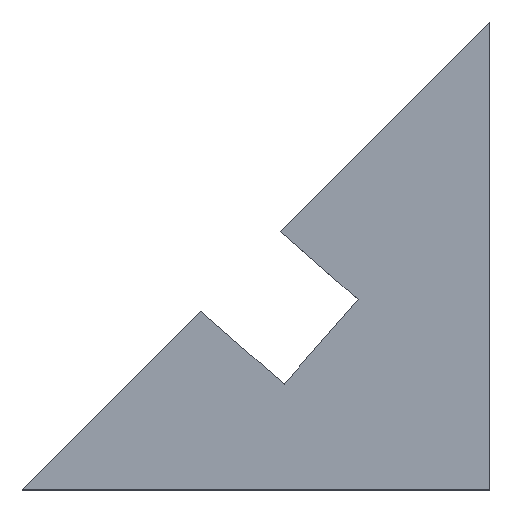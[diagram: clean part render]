
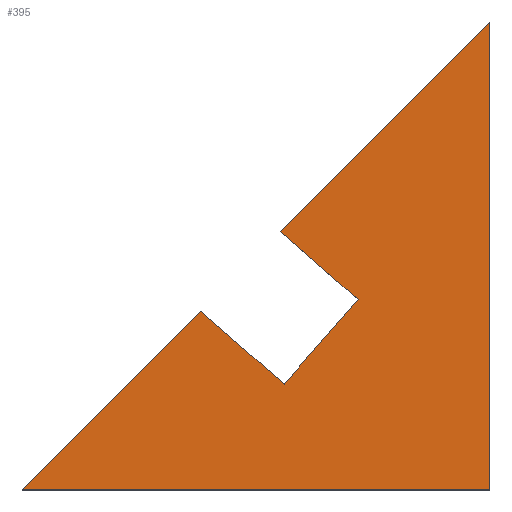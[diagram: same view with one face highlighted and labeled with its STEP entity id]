
A CAD part, top view. The second image highlights one B-rep face of the part: STEP entity #395.
In plain terms, the highlighted planar face has unit normal (0, 0, 1).
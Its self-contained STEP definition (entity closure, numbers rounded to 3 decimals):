
#24 = VERTEX_POINT('',#25);
#25 = CARTESIAN_POINT('',(0.,0.,12.));
#32 = PLANE('',#33);
#33 = AXIS2_PLACEMENT_3D('',#34,#35,#36);
#34 = CARTESIAN_POINT('',(0.,0.,0.));
#35 = DIRECTION('',(-0.,1.,-0.));
#36 = DIRECTION('',(1.,0.,0.));
#44 = PLANE('',#45);
#45 = AXIS2_PLACEMENT_3D('',#46,#47,#48);
#46 = CARTESIAN_POINT('',(0.,250.,0.));
#47 = DIRECTION('',(-1.,-0.,-0.));
#48 = DIRECTION('',(0.,1.,0.));
#56 = EDGE_CURVE('',#24,#57,#59,.T.);
#57 = VERTEX_POINT('',#58);
#58 = CARTESIAN_POINT('',(-250.,0.,12.));
#59 = SURFACE_CURVE('',#60,(#64,#71),.PCURVE_S1.);
#60 = LINE('',#61,#62);
#61 = CARTESIAN_POINT('',(0.,0.,12.));
#62 = VECTOR('',#63,1.);
#63 = DIRECTION('',(-1.,-0.,-0.));
#64 = PCURVE('',#32,#65);
#65 = DEFINITIONAL_REPRESENTATION('',(#66),#70);
#66 = LINE('',#67,#68);
#67 = CARTESIAN_POINT('',(-0.,-12.));
#68 = VECTOR('',#69,1.);
#69 = DIRECTION('',(-1.,0.));
#70 = ( GEOMETRIC_REPRESENTATION_CONTEXT(2) 
PARAMETRIC_REPRESENTATION_CONTEXT() REPRESENTATION_CONTEXT('2D SPACE',''
  ) );
#71 = PCURVE('',#72,#77);
#72 = PLANE('',#73);
#73 = AXIS2_PLACEMENT_3D('',#74,#75,#76);
#74 = CARTESIAN_POINT('',(-88.388,88.388,12.));
#75 = DIRECTION('',(-0.,-0.,1.));
#76 = DIRECTION('',(1.,0.,0.));
#77 = DEFINITIONAL_REPRESENTATION('',(#78),#82);
#78 = LINE('',#79,#80);
#79 = CARTESIAN_POINT('',(88.388,-88.388));
#80 = VECTOR('',#81,1.);
#81 = DIRECTION('',(-1.,0.));
#82 = ( GEOMETRIC_REPRESENTATION_CONTEXT(2) 
PARAMETRIC_REPRESENTATION_CONTEXT() REPRESENTATION_CONTEXT('2D SPACE',''
  ) );
#100 = PLANE('',#101);
#101 = AXIS2_PLACEMENT_3D('',#102,#103,#104);
#102 = CARTESIAN_POINT('',(-250.,0.,0.));
#103 = DIRECTION('',(0.707,-0.707,0.));
#104 = DIRECTION('',(-0.707,-0.707,0.));
#144 = VERTEX_POINT('',#145);
#145 = CARTESIAN_POINT('',(0.,250.,12.));
#159 = PLANE('',#160);
#160 = AXIS2_PLACEMENT_3D('',#161,#162,#163);
#161 = CARTESIAN_POINT('',(-250.,0.,0.));
#162 = DIRECTION('',(0.707,-0.707,0.));
#163 = DIRECTION('',(-0.707,-0.707,0.));
#171 = EDGE_CURVE('',#144,#24,#172,.T.);
#172 = SURFACE_CURVE('',#173,(#177,#184),.PCURVE_S1.);
#173 = LINE('',#174,#175);
#174 = CARTESIAN_POINT('',(0.,250.,12.));
#175 = VECTOR('',#176,1.);
#176 = DIRECTION('',(-0.,-1.,-0.));
#177 = PCURVE('',#44,#178);
#178 = DEFINITIONAL_REPRESENTATION('',(#179),#183);
#179 = LINE('',#180,#181);
#180 = CARTESIAN_POINT('',(-0.,-12.));
#181 = VECTOR('',#182,1.);
#182 = DIRECTION('',(-1.,0.));
#183 = ( GEOMETRIC_REPRESENTATION_CONTEXT(2) 
PARAMETRIC_REPRESENTATION_CONTEXT() REPRESENTATION_CONTEXT('2D SPACE',''
  ) );
#184 = PCURVE('',#72,#185);
#185 = DEFINITIONAL_REPRESENTATION('',(#186),#190);
#186 = LINE('',#187,#188);
#187 = CARTESIAN_POINT('',(88.388,161.612));
#188 = VECTOR('',#189,1.);
#189 = DIRECTION('',(-0.,-1.));
#190 = ( GEOMETRIC_REPRESENTATION_CONTEXT(2) 
PARAMETRIC_REPRESENTATION_CONTEXT() REPRESENTATION_CONTEXT('2D SPACE',''
  ) );
#241 = EDGE_CURVE('',#57,#242,#244,.T.);
#242 = VERTEX_POINT('',#243);
#243 = CARTESIAN_POINT('',(-154.456,95.544,12.));
#244 = SURFACE_CURVE('',#245,(#249,#256),.PCURVE_S1.);
#245 = LINE('',#246,#247);
#246 = CARTESIAN_POINT('',(-250.,0.,12.));
#247 = VECTOR('',#248,1.);
#248 = DIRECTION('',(0.707,0.707,-0.));
#249 = PCURVE('',#100,#250);
#250 = DEFINITIONAL_REPRESENTATION('',(#251),#255);
#251 = LINE('',#252,#253);
#252 = CARTESIAN_POINT('',(-0.,-12.));
#253 = VECTOR('',#254,1.);
#254 = DIRECTION('',(-1.,0.));
#255 = ( GEOMETRIC_REPRESENTATION_CONTEXT(2) 
PARAMETRIC_REPRESENTATION_CONTEXT() REPRESENTATION_CONTEXT('2D SPACE',''
  ) );
#256 = PCURVE('',#72,#257);
#257 = DEFINITIONAL_REPRESENTATION('',(#258),#262);
#258 = LINE('',#259,#260);
#259 = CARTESIAN_POINT('',(-161.612,-88.388));
#260 = VECTOR('',#261,1.);
#261 = DIRECTION('',(0.707,0.707));
#262 = ( GEOMETRIC_REPRESENTATION_CONTEXT(2) 
PARAMETRIC_REPRESENTATION_CONTEXT() REPRESENTATION_CONTEXT('2D SPACE',''
  ) );
#278 = PLANE('',#279);
#279 = AXIS2_PLACEMENT_3D('',#280,#281,#282);
#280 = CARTESIAN_POINT('',(-583.532,471.81,36.001));
#281 = DIRECTION('',(-0.659,-0.752,-0.));
#282 = DIRECTION('',(-0.752,0.659,-0.));
#335 = PLANE('',#336);
#336 = AXIS2_PLACEMENT_3D('',#337,#338,#339);
#337 = CARTESIAN_POINT('',(-70.443,101.675,36.001));
#338 = DIRECTION('',(0.752,-0.659,0.));
#339 = DIRECTION('',(0.,0.,1.));
#363 = PLANE('',#364);
#364 = AXIS2_PLACEMENT_3D('',#365,#366,#367);
#365 = CARTESIAN_POINT('',(-543.972,516.924,36.001));
#366 = DIRECTION('',(-0.659,-0.752,-0.));
#367 = DIRECTION('',(-0.752,0.659,-0.));
#395 = ADVANCED_FACE('',(#396),#72,.T.);
#396 = FACE_BOUND('',#397,.F.);
#397 = EDGE_LOOP('',(#398,#399,#400,#401,#424,#447,#470));
#398 = ORIENTED_EDGE('',*,*,#171,.T.);
#399 = ORIENTED_EDGE('',*,*,#56,.T.);
#400 = ORIENTED_EDGE('',*,*,#241,.T.);
#401 = ORIENTED_EDGE('',*,*,#402,.F.);
#402 = EDGE_CURVE('',#403,#242,#405,.T.);
#403 = VERTEX_POINT('',#404);
#404 = CARTESIAN_POINT('',(-110.004,56.562,12.));
#405 = SURFACE_CURVE('',#406,(#410,#417),.PCURVE_S1.);
#406 = LINE('',#407,#408);
#407 = CARTESIAN_POINT('',(-348.547,265.746,12.));
#408 = VECTOR('',#409,1.);
#409 = DIRECTION('',(-0.752,0.659,-0.));
#410 = PCURVE('',#72,#411);
#411 = DEFINITIONAL_REPRESENTATION('',(#412),#416);
#412 = LINE('',#413,#414);
#413 = CARTESIAN_POINT('',(-260.158,177.358));
#414 = VECTOR('',#415,1.);
#415 = DIRECTION('',(-0.752,0.659));
#416 = ( GEOMETRIC_REPRESENTATION_CONTEXT(2) 
PARAMETRIC_REPRESENTATION_CONTEXT() REPRESENTATION_CONTEXT('2D SPACE',''
  ) );
#417 = PCURVE('',#278,#418);
#418 = DEFINITIONAL_REPRESENTATION('',(#419),#423);
#419 = LINE('',#420,#421);
#420 = CARTESIAN_POINT('',(-312.539,24.001));
#421 = VECTOR('',#422,1.);
#422 = DIRECTION('',(1.,-0.));
#423 = ( GEOMETRIC_REPRESENTATION_CONTEXT(2) 
PARAMETRIC_REPRESENTATION_CONTEXT() REPRESENTATION_CONTEXT('2D SPACE',''
  ) );
#424 = ORIENTED_EDGE('',*,*,#425,.F.);
#425 = EDGE_CURVE('',#426,#403,#428,.T.);
#426 = VERTEX_POINT('',#427);
#427 = CARTESIAN_POINT('',(-70.443,101.675,12.));
#428 = SURFACE_CURVE('',#429,(#433,#440),.PCURVE_S1.);
#429 = LINE('',#430,#431);
#430 = CARTESIAN_POINT('',(-77.637,93.472,12.));
#431 = VECTOR('',#432,1.);
#432 = DIRECTION('',(-0.659,-0.752,-0.));
#433 = PCURVE('',#72,#434);
#434 = DEFINITIONAL_REPRESENTATION('',(#435),#439);
#435 = LINE('',#436,#437);
#436 = CARTESIAN_POINT('',(10.752,5.083));
#437 = VECTOR('',#438,1.);
#438 = DIRECTION('',(-0.659,-0.752));
#439 = ( GEOMETRIC_REPRESENTATION_CONTEXT(2) 
PARAMETRIC_REPRESENTATION_CONTEXT() REPRESENTATION_CONTEXT('2D SPACE',''
  ) );
#440 = PCURVE('',#335,#441);
#441 = DEFINITIONAL_REPRESENTATION('',(#442),#446);
#442 = LINE('',#443,#444);
#443 = CARTESIAN_POINT('',(-24.001,10.911));
#444 = VECTOR('',#445,1.);
#445 = DIRECTION('',(-0.,1.));
#446 = ( GEOMETRIC_REPRESENTATION_CONTEXT(2) 
PARAMETRIC_REPRESENTATION_CONTEXT() REPRESENTATION_CONTEXT('2D SPACE',''
  ) );
#447 = ORIENTED_EDGE('',*,*,#448,.T.);
#448 = EDGE_CURVE('',#426,#449,#451,.T.);
#449 = VERTEX_POINT('',#450);
#450 = CARTESIAN_POINT('',(-111.937,138.063,12.));
#451 = SURFACE_CURVE('',#452,(#456,#463),.PCURVE_S1.);
#452 = LINE('',#453,#454);
#453 = CARTESIAN_POINT('',(-308.986,310.859,12.));
#454 = VECTOR('',#455,1.);
#455 = DIRECTION('',(-0.752,0.659,-0.));
#456 = PCURVE('',#72,#457);
#457 = DEFINITIONAL_REPRESENTATION('',(#458),#462);
#458 = LINE('',#459,#460);
#459 = CARTESIAN_POINT('',(-220.598,222.471));
#460 = VECTOR('',#461,1.);
#461 = DIRECTION('',(-0.752,0.659));
#462 = ( GEOMETRIC_REPRESENTATION_CONTEXT(2) 
PARAMETRIC_REPRESENTATION_CONTEXT() REPRESENTATION_CONTEXT('2D SPACE',''
  ) );
#463 = PCURVE('',#363,#464);
#464 = DEFINITIONAL_REPRESENTATION('',(#465),#469);
#465 = LINE('',#466,#467);
#466 = CARTESIAN_POINT('',(-312.539,24.001));
#467 = VECTOR('',#468,1.);
#468 = DIRECTION('',(1.,-0.));
#469 = ( GEOMETRIC_REPRESENTATION_CONTEXT(2) 
PARAMETRIC_REPRESENTATION_CONTEXT() REPRESENTATION_CONTEXT('2D SPACE',''
  ) );
#470 = ORIENTED_EDGE('',*,*,#471,.T.);
#471 = EDGE_CURVE('',#449,#144,#472,.T.);
#472 = SURFACE_CURVE('',#473,(#477,#484),.PCURVE_S1.);
#473 = LINE('',#474,#475);
#474 = CARTESIAN_POINT('',(-250.,0.,12.));
#475 = VECTOR('',#476,1.);
#476 = DIRECTION('',(0.707,0.707,-0.));
#477 = PCURVE('',#72,#478);
#478 = DEFINITIONAL_REPRESENTATION('',(#479),#483);
#479 = LINE('',#480,#481);
#480 = CARTESIAN_POINT('',(-161.612,-88.388));
#481 = VECTOR('',#482,1.);
#482 = DIRECTION('',(0.707,0.707));
#483 = ( GEOMETRIC_REPRESENTATION_CONTEXT(2) 
PARAMETRIC_REPRESENTATION_CONTEXT() REPRESENTATION_CONTEXT('2D SPACE',''
  ) );
#484 = PCURVE('',#159,#485);
#485 = DEFINITIONAL_REPRESENTATION('',(#486),#490);
#486 = LINE('',#487,#488);
#487 = CARTESIAN_POINT('',(-0.,-12.));
#488 = VECTOR('',#489,1.);
#489 = DIRECTION('',(-1.,0.));
#490 = ( GEOMETRIC_REPRESENTATION_CONTEXT(2) 
PARAMETRIC_REPRESENTATION_CONTEXT() REPRESENTATION_CONTEXT('2D SPACE',''
  ) );
